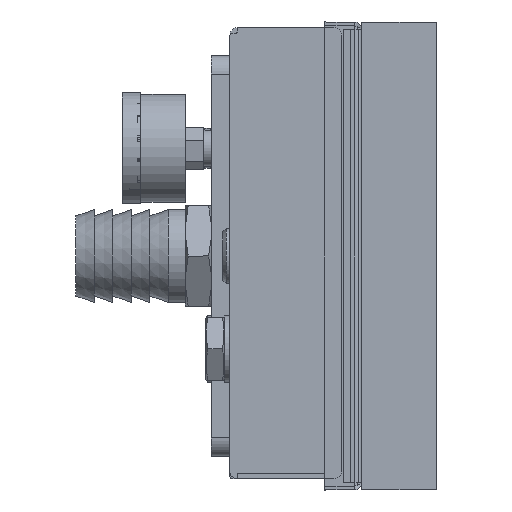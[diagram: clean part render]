
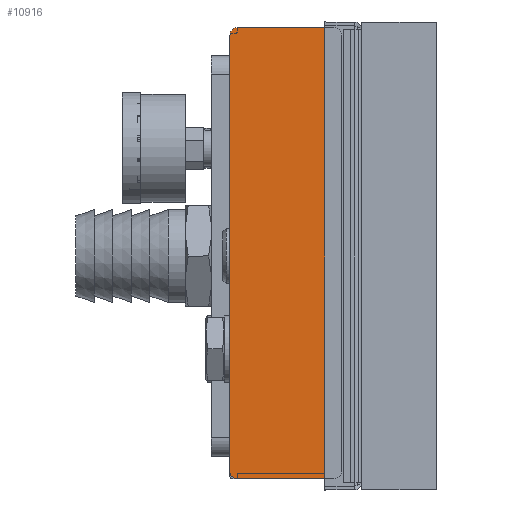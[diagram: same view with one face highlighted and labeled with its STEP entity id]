
A CAD part, left-side view. The second image highlights one B-rep face of the part: STEP entity #10916.
In plain terms, the highlighted planar face has unit normal (-1, 0, 0).
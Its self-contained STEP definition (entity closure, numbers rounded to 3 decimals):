
#45 = DIRECTION ( 'NONE',  ( 0., 0., -1. ) ) ;
#371 = DIRECTION ( 'NONE',  ( 0., 0., 1. ) ) ;
#413 = EDGE_CURVE ( 'NONE', #438, #15460, #17071, .T. ) ;
#438 = VERTEX_POINT ( 'NONE', #14231 ) ;
#872 = EDGE_CURVE ( 'NONE', #1949, #14705, #13017, .T. ) ;
#932 = ORIENTED_EDGE ( 'NONE', *, *, #25899, .T. ) ;
#1733 = ORIENTED_EDGE ( 'NONE', *, *, #16723, .T. ) ;
#1949 = VERTEX_POINT ( 'NONE', #15344 ) ;
#2242 = AXIS2_PLACEMENT_3D ( 'NONE', #4383, #18346, #6358 ) ;
#2276 = FACE_OUTER_BOUND ( 'NONE', #20382, .T. ) ;
#2579 = CARTESIAN_POINT ( 'NONE',  ( -700., 15., 59.5 ) ) ;
#2817 = CARTESIAN_POINT ( 'NONE',  ( -700., 13., -58. ) ) ;
#2844 = DIRECTION ( 'NONE',  ( -1., 0., 0. ) ) ;
#4051 = DIRECTION ( 'NONE',  ( 0., 1., 0. ) ) ;
#4131 = CARTESIAN_POINT ( 'NONE',  ( -700., -13., -58. ) ) ;
#4290 = CIRCLE ( 'NONE', #16873, 2. ) ;
#4383 = CARTESIAN_POINT ( 'NONE',  ( -700., 13., 59.5 ) ) ;
#4945 = LINE ( 'NONE', #6786, #16770 ) ;
#6103 = DIRECTION ( 'NONE',  ( 0., 0., 1. ) ) ;
#6238 = AXIS2_PLACEMENT_3D ( 'NONE', #8399, #22362, #371 ) ;
#6358 = DIRECTION ( 'NONE',  ( 0., 0., 1. ) ) ;
#6693 = CIRCLE ( 'NONE', #22005, 2. ) ;
#6786 = CARTESIAN_POINT ( 'NONE',  ( -700., 15., 61.5 ) ) ;
#8088 = AXIS2_PLACEMENT_3D ( 'NONE', #2817, #2844, #20671 ) ;
#8175 = VERTEX_POINT ( 'NONE', #22003 ) ;
#8399 = CARTESIAN_POINT ( 'NONE',  ( -700., 15., 61.5 ) ) ;
#8941 = VECTOR ( 'NONE', #16421, 1000. ) ;
#9193 = VECTOR ( 'NONE', #45, 1000. ) ;
#9674 = ORIENTED_EDGE ( 'NONE', *, *, #23556, .F. ) ;
#10240 = ORIENTED_EDGE ( 'NONE', *, *, #413, .F. ) ;
#10607 = CARTESIAN_POINT ( 'NONE',  ( -700., -13., 59.5 ) ) ;
#10916 = ADVANCED_FACE ( 'NONE', ( #2276 ), #24484, .T. ) ;
#10958 = ORIENTED_EDGE ( 'NONE', *, *, #872, .T. ) ;
#11432 = EDGE_CURVE ( 'NONE', #18696, #20363, #6693, .T. ) ;
#11926 = LINE ( 'NONE', #24017, #17289 ) ;
#12076 = VERTEX_POINT ( 'NONE', #2579 ) ;
#12604 = DIRECTION ( 'NONE',  ( 0., 0., 1. ) ) ;
#13017 = CIRCLE ( 'NONE', #8088, 2. ) ;
#13791 = CARTESIAN_POINT ( 'NONE',  ( -700., -13., -60. ) ) ;
#13915 = CARTESIAN_POINT ( 'NONE',  ( -700., -15., 61.5 ) ) ;
#14078 = CARTESIAN_POINT ( 'NONE',  ( -700., -15., 61.5 ) ) ;
#14140 = CARTESIAN_POINT ( 'NONE',  ( -700., 13., -60. ) ) ;
#14231 = CARTESIAN_POINT ( 'NONE',  ( -700., 13., 61.5 ) ) ;
#14471 = LINE ( 'NONE', #14078, #9193 ) ;
#14705 = VERTEX_POINT ( 'NONE', #14140 ) ;
#15344 = CARTESIAN_POINT ( 'NONE',  ( -700., 15., -58. ) ) ;
#15460 = VERTEX_POINT ( 'NONE', #24742 ) ;
#16421 = DIRECTION ( 'NONE',  ( 0., -1., 0. ) ) ;
#16433 = ORIENTED_EDGE ( 'NONE', *, *, #22103, .F. ) ;
#16723 = EDGE_CURVE ( 'NONE', #8175, #15460, #4290, .T. ) ;
#16770 = VECTOR ( 'NONE', #22749, 1000. ) ;
#16873 = AXIS2_PLACEMENT_3D ( 'NONE', #10607, #24701, #12604 ) ;
#17071 = LINE ( 'NONE', #13915, #8941 ) ;
#17161 = ORIENTED_EDGE ( 'NONE', *, *, #11432, .T. ) ;
#17289 = VECTOR ( 'NONE', #4051, 1000. ) ;
#17925 = CIRCLE ( 'NONE', #2242, 2. ) ;
#18096 = DIRECTION ( 'NONE',  ( -1., 0., 0. ) ) ;
#18346 = DIRECTION ( 'NONE',  ( -1., 0., 0. ) ) ;
#18696 = VERTEX_POINT ( 'NONE', #13791 ) ;
#20363 = VERTEX_POINT ( 'NONE', #24645 ) ;
#20382 = EDGE_LOOP ( 'NONE', ( #16433, #10958, #22893, #17161, #9674, #1733, #10240, #932 ) ) ;
#20671 = DIRECTION ( 'NONE',  ( 0., 0., 1. ) ) ;
#22003 = CARTESIAN_POINT ( 'NONE',  ( -700., -15., 59.5 ) ) ;
#22005 = AXIS2_PLACEMENT_3D ( 'NONE', #4131, #18096, #6103 ) ;
#22103 = EDGE_CURVE ( 'NONE', #1949, #12076, #4945, .T. ) ;
#22362 = DIRECTION ( 'NONE',  ( -1., 0., 0. ) ) ;
#22749 = DIRECTION ( 'NONE',  ( 0., 0., 1. ) ) ;
#22893 = ORIENTED_EDGE ( 'NONE', *, *, #25392, .F. ) ;
#23556 = EDGE_CURVE ( 'NONE', #8175, #20363, #14471, .T. ) ;
#24017 = CARTESIAN_POINT ( 'NONE',  ( -700., -15., -60. ) ) ;
#24484 = PLANE ( 'NONE',  #6238 ) ;
#24645 = CARTESIAN_POINT ( 'NONE',  ( -700., -15., -58. ) ) ;
#24701 = DIRECTION ( 'NONE',  ( -1., 0., 0. ) ) ;
#24742 = CARTESIAN_POINT ( 'NONE',  ( -700., -13., 61.5 ) ) ;
#25392 = EDGE_CURVE ( 'NONE', #18696, #14705, #11926, .T. ) ;
#25899 = EDGE_CURVE ( 'NONE', #438, #12076, #17925, .T. ) ;
